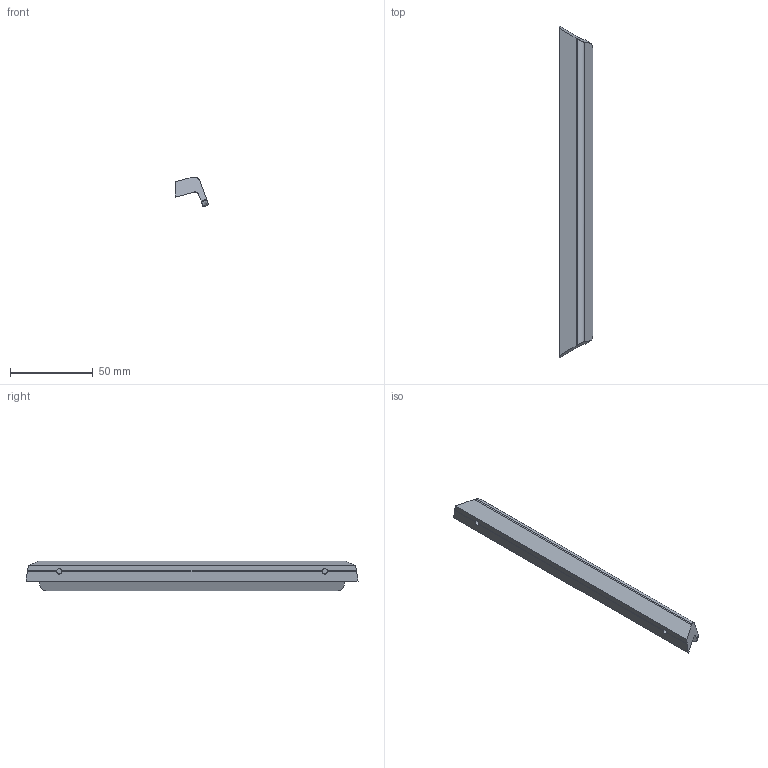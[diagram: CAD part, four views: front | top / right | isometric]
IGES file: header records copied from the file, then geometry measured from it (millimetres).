
Start section: C
Global section: file name: 8362-RE24.igs; native system: By Siemens PLM Incorporated; preprocessor: XPlus GENERIC/IGES 16.0.42; author: Author; organization: Title; date: 20250219.134843; units: millimetre
Bounding box: 20.08 x 200 x 18.04 mm (x, y, z)
Surface area: 13276 mm2 (no closed solid volume)
Topology: 0 solids, 0 shells, 27 faces, 154 edges, 154 vertices
Faces by surface type: bspline 27
